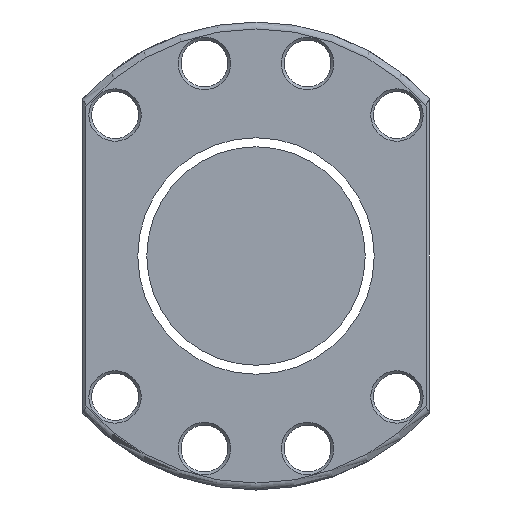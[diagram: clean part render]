
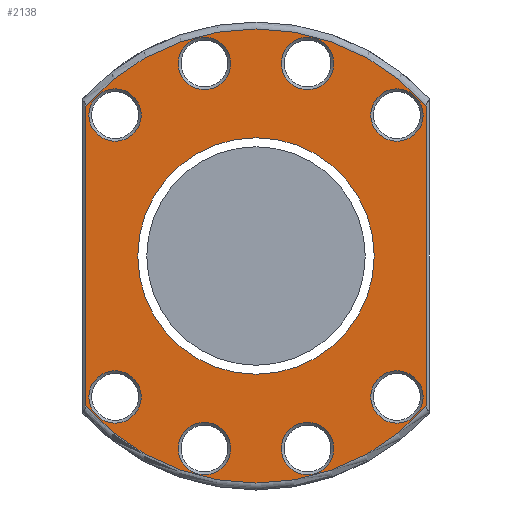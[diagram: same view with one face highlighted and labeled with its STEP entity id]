
A CAD part, left-side view. The second image highlights one B-rep face of the part: STEP entity #2138.
In plain terms, the highlighted planar face has unit normal (-1, 0, 0).
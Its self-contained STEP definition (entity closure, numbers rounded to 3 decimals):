
#2 = DIRECTION ( 'NONE',  ( 0., -1., 0. ) ) ;
#14 = DIRECTION ( 'NONE',  ( 0., -1., 0. ) ) ;
#39 = CARTESIAN_POINT ( 'NONE',  ( -149., 34.1, 0. ) ) ;
#79 = AXIS2_PLACEMENT_3D ( 'NONE', #1724, #2288, #429 ) ;
#80 = DIRECTION ( 'NONE',  ( 1., 0., 0. ) ) ;
#81 = VERTEX_POINT ( 'NONE', #1167 ) ;
#121 = CARTESIAN_POINT ( 'NONE',  ( -149., 33.109, 40.659 ) ) ;
#132 = ORIENTED_EDGE ( 'NONE', *, *, #524, .T. ) ;
#188 = AXIS2_PLACEMENT_3D ( 'NONE', #1692, #3000, #1464 ) ;
#294 = ORIENTED_EDGE ( 'NONE', *, *, #2518, .T. ) ;
#317 = VERTEX_POINT ( 'NONE', #39 ) ;
#333 = CARTESIAN_POINT ( 'NONE',  ( -149., 7.332, -55.541 ) ) ;
#364 = FACE_BOUND ( 'NONE', #688, .T. ) ;
#393 = EDGE_LOOP ( 'NONE', ( #2966 ) ) ;
#397 = DIRECTION ( 'NONE',  ( 0., -1., 0. ) ) ;
#398 = DIRECTION ( 'NONE',  ( 0., -1., 0. ) ) ;
#410 = DIRECTION ( 'NONE',  ( 1., 0., 0. ) ) ;
#429 = DIRECTION ( 'NONE',  ( 0., -1., 0. ) ) ;
#434 = FACE_BOUND ( 'NONE', #2829, .T. ) ;
#486 = ORIENTED_EDGE ( 'NONE', *, *, #1933, .T. ) ;
#511 = CARTESIAN_POINT ( 'NONE',  ( -149., 14.882, -55.541 ) ) ;
#524 = EDGE_CURVE ( 'NONE', #317, #317, #864, .T. ) ;
#530 = CIRCLE ( 'NONE', #636, 65.5 ) ;
#565 = CARTESIAN_POINT ( 'NONE',  ( -149., -48.209, -40.659 ) ) ;
#579 = CARTESIAN_POINT ( 'NONE',  ( -149., -22.432, 55.541 ) ) ;
#634 = DIRECTION ( 'NONE',  ( 1., 0., 0. ) ) ;
#636 = AXIS2_PLACEMENT_3D ( 'NONE', #2984, #2127, #398 ) ;
#639 = EDGE_CURVE ( 'NONE', #1370, #1370, #2876, .T. ) ;
#655 = CARTESIAN_POINT ( 'NONE',  ( -149., -14.882, 55.541 ) ) ;
#665 = ORIENTED_EDGE ( 'NONE', *, *, #1124, .T. ) ;
#688 = EDGE_LOOP ( 'NONE', ( #2696 ) ) ;
#698 = VERTEX_POINT ( 'NONE', #2206 ) ;
#732 = EDGE_CURVE ( 'NONE', #1137, #1137, #1131, .T. ) ;
#734 = EDGE_LOOP ( 'NONE', ( #1986 ) ) ;
#818 = DIRECTION ( 'NONE',  ( 0., 1., 0. ) ) ;
#821 = VERTEX_POINT ( 'NONE', #565 ) ;
#864 = CIRCLE ( 'NONE', #2441, 34.1 ) ;
#880 = VERTEX_POINT ( 'NONE', #1143 ) ;
#912 = FACE_BOUND ( 'NONE', #3204, .T. ) ;
#916 = CARTESIAN_POINT ( 'NONE',  ( -149., 33.109, -40.659 ) ) ;
#961 = CIRCLE ( 'NONE', #1612, 7.55 ) ;
#980 = EDGE_CURVE ( 'NONE', #2655, #2655, #1056, .T. ) ;
#1050 = DIRECTION ( 'NONE',  ( 0., 0., -1. ) ) ;
#1056 = CIRCLE ( 'NONE', #1271, 7.55 ) ;
#1124 = EDGE_CURVE ( 'NONE', #821, #821, #2204, .T. ) ;
#1131 = CIRCLE ( 'NONE', #1568, 7.55 ) ;
#1137 = VERTEX_POINT ( 'NONE', #579 ) ;
#1143 = CARTESIAN_POINT ( 'NONE',  ( -149., 49.2, -43.239 ) ) ;
#1145 = CARTESIAN_POINT ( 'NONE',  ( -149., 14.882, 55.541 ) ) ;
#1167 = CARTESIAN_POINT ( 'NONE',  ( -149., -49.2, 43.239 ) ) ;
#1194 = CARTESIAN_POINT ( 'NONE',  ( -149., -49.2, -43.239 ) ) ;
#1271 = AXIS2_PLACEMENT_3D ( 'NONE', #2458, #634, #2200 ) ;
#1361 = CARTESIAN_POINT ( 'NONE',  ( -149., -14.882, -55.541 ) ) ;
#1370 = VERTEX_POINT ( 'NONE', #333 ) ;
#1398 = DIRECTION ( 'NONE',  ( 0., -1., 0. ) ) ;
#1448 = FACE_BOUND ( 'NONE', #3274, .T. ) ;
#1464 = DIRECTION ( 'NONE',  ( 0., -1., 0. ) ) ;
#1501 = ORIENTED_EDGE ( 'NONE', *, *, #2892, .T. ) ;
#1544 = DIRECTION ( 'NONE',  ( -1., 0., 0. ) ) ;
#1557 = CIRCLE ( 'NONE', #79, 7.55 ) ;
#1568 = AXIS2_PLACEMENT_3D ( 'NONE', #655, #1678, #3237 ) ;
#1612 = AXIS2_PLACEMENT_3D ( 'NONE', #1145, #2950, #1398 ) ;
#1643 = CARTESIAN_POINT ( 'NONE',  ( -149., -49.2, 45.346 ) ) ;
#1678 = DIRECTION ( 'NONE',  ( 1., 0., 0. ) ) ;
#1680 = CARTESIAN_POINT ( 'NONE',  ( -149., -22.432, -55.541 ) ) ;
#1692 = CARTESIAN_POINT ( 'NONE',  ( -149., 67.5, 0. ) ) ;
#1709 = FACE_BOUND ( 'NONE', #2823, .T. ) ;
#1717 = AXIS2_PLACEMENT_3D ( 'NONE', #2426, #80, #14 ) ;
#1724 = CARTESIAN_POINT ( 'NONE',  ( -149., 40.659, -40.659 ) ) ;
#1741 = CARTESIAN_POINT ( 'NONE',  ( -149., -40.659, -40.659 ) ) ;
#1851 = ORIENTED_EDGE ( 'NONE', *, *, #732, .T. ) ;
#1881 = VECTOR ( 'NONE', #1050, 1000. ) ;
#1884 = CIRCLE ( 'NONE', #3232, 7.55 ) ;
#1933 = EDGE_CURVE ( 'NONE', #81, #698, #2587, .T. ) ;
#1959 = DIRECTION ( 'NONE',  ( 0., -1., 0. ) ) ;
#1986 = ORIENTED_EDGE ( 'NONE', *, *, #980, .T. ) ;
#2086 = EDGE_CURVE ( 'NONE', #698, #880, #2603, .T. ) ;
#2122 = CARTESIAN_POINT ( 'NONE',  ( -149., 0., 0. ) ) ;
#2127 = DIRECTION ( 'NONE',  ( -1., 0., 0. ) ) ;
#2138 = ADVANCED_FACE ( 'NONE', ( #2205, #3233, #3287, #434, #364, #1448, #912, #2494, #2475, #1709 ), #2982, .T. ) ;
#2194 = VERTEX_POINT ( 'NONE', #3222 ) ;
#2200 = DIRECTION ( 'NONE',  ( 0., -1., 0. ) ) ;
#2204 = CIRCLE ( 'NONE', #3125, 7.55 ) ;
#2205 = FACE_BOUND ( 'NONE', #393, .T. ) ;
#2206 = CARTESIAN_POINT ( 'NONE',  ( -149., 49.2, 43.239 ) ) ;
#2227 = VERTEX_POINT ( 'NONE', #1680 ) ;
#2288 = DIRECTION ( 'NONE',  ( 1., 0., 0. ) ) ;
#2291 = EDGE_CURVE ( 'NONE', #2772, #2772, #2752, .T. ) ;
#2349 = CARTESIAN_POINT ( 'NONE',  ( -149., 49.2, -45.346 ) ) ;
#2426 = CARTESIAN_POINT ( 'NONE',  ( -149., 40.659, 40.659 ) ) ;
#2438 = EDGE_CURVE ( 'NONE', #2194, #2194, #961, .T. ) ;
#2441 = AXIS2_PLACEMENT_3D ( 'NONE', #2122, #2653, #818 ) ;
#2458 = CARTESIAN_POINT ( 'NONE',  ( -149., -40.659, 40.659 ) ) ;
#2475 = FACE_OUTER_BOUND ( 'NONE', #2544, .T. ) ;
#2494 = FACE_BOUND ( 'NONE', #3188, .T. ) ;
#2518 = EDGE_CURVE ( 'NONE', #880, #3298, #530, .T. ) ;
#2544 = EDGE_LOOP ( 'NONE', ( #1501, #486, #3168, #294 ) ) ;
#2580 = ORIENTED_EDGE ( 'NONE', *, *, #639, .T. ) ;
#2587 = CIRCLE ( 'NONE', #3015, 65.5 ) ;
#2603 = LINE ( 'NONE', #2349, #1881 ) ;
#2653 = DIRECTION ( 'NONE',  ( 1., 0., 0. ) ) ;
#2655 = VERTEX_POINT ( 'NONE', #3085 ) ;
#2696 = ORIENTED_EDGE ( 'NONE', *, *, #2438, .T. ) ;
#2708 = ORIENTED_EDGE ( 'NONE', *, *, #2291, .T. ) ;
#2744 = DIRECTION ( 'NONE',  ( 0., -1., 0. ) ) ;
#2750 = DIRECTION ( 'NONE',  ( 0., 0., 1. ) ) ;
#2752 = CIRCLE ( 'NONE', #1717, 7.55 ) ;
#2772 = VERTEX_POINT ( 'NONE', #121 ) ;
#2779 = DIRECTION ( 'NONE',  ( 1., 0., 0. ) ) ;
#2823 = EDGE_LOOP ( 'NONE', ( #132 ) ) ;
#2827 = CARTESIAN_POINT ( 'NONE',  ( -149., 0., 0. ) ) ;
#2829 = EDGE_LOOP ( 'NONE', ( #1851 ) ) ;
#2862 = DIRECTION ( 'NONE',  ( 1., 0., 0. ) ) ;
#2876 = CIRCLE ( 'NONE', #3357, 7.55 ) ;
#2892 = EDGE_CURVE ( 'NONE', #3298, #81, #2968, .T. ) ;
#2917 = VECTOR ( 'NONE', #2750, 1000. ) ;
#2950 = DIRECTION ( 'NONE',  ( 1., 0., 0. ) ) ;
#2966 = ORIENTED_EDGE ( 'NONE', *, *, #3234, .T. ) ;
#2968 = LINE ( 'NONE', #1643, #2917 ) ;
#2982 = PLANE ( 'NONE',  #188 ) ;
#2984 = CARTESIAN_POINT ( 'NONE',  ( -149., 0., 0. ) ) ;
#3000 = DIRECTION ( 'NONE',  ( -1., 0., 0. ) ) ;
#3015 = AXIS2_PLACEMENT_3D ( 'NONE', #2827, #1544, #2 ) ;
#3085 = CARTESIAN_POINT ( 'NONE',  ( -149., -48.209, 40.659 ) ) ;
#3125 = AXIS2_PLACEMENT_3D ( 'NONE', #1741, #2779, #2744 ) ;
#3168 = ORIENTED_EDGE ( 'NONE', *, *, #2086, .T. ) ;
#3188 = EDGE_LOOP ( 'NONE', ( #2580 ) ) ;
#3204 = EDGE_LOOP ( 'NONE', ( #3328 ) ) ;
#3222 = CARTESIAN_POINT ( 'NONE',  ( -149., 7.332, 55.541 ) ) ;
#3232 = AXIS2_PLACEMENT_3D ( 'NONE', #1361, #410, #1959 ) ;
#3233 = FACE_BOUND ( 'NONE', #3258, .T. ) ;
#3234 = EDGE_CURVE ( 'NONE', #2227, #2227, #1884, .T. ) ;
#3236 = EDGE_CURVE ( 'NONE', #3273, #3273, #1557, .T. ) ;
#3237 = DIRECTION ( 'NONE',  ( 0., -1., 0. ) ) ;
#3258 = EDGE_LOOP ( 'NONE', ( #665 ) ) ;
#3273 = VERTEX_POINT ( 'NONE', #916 ) ;
#3274 = EDGE_LOOP ( 'NONE', ( #2708 ) ) ;
#3287 = FACE_BOUND ( 'NONE', #734, .T. ) ;
#3298 = VERTEX_POINT ( 'NONE', #1194 ) ;
#3328 = ORIENTED_EDGE ( 'NONE', *, *, #3236, .T. ) ;
#3357 = AXIS2_PLACEMENT_3D ( 'NONE', #511, #2862, #397 ) ;
